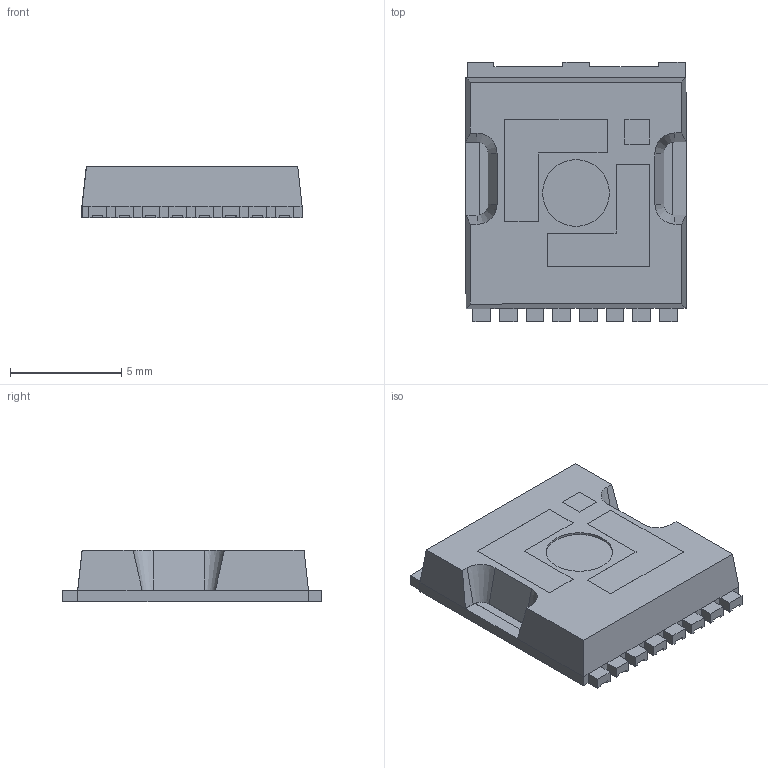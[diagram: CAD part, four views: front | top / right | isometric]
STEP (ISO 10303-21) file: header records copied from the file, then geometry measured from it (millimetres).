
FILE_DESCRIPTION(('HOOPS Exchange Step'),'2;1');
FILE_NAME('C:\Users\lenovo\AppData\Local\Packages\Shapr3D.Shapr3D_dvv5p1vgwv6mp\TempState\export\temp_export','2025-12-17T18:20:29+08:00',('lenovo'),('Shapr3D Limited'),'HOOPS Exchange 2025.7','Shapr3D','Authorized');
FILE_SCHEMA( ('AP242_MANAGED_MODEL_BASED_3D_ENGINEERING_MIM_LF {1 0 10303 442 1 1 4}') );
Length unit declared in the file: millimetre
Products named in the file (1): root
Bounding box: 9.91 x 11.68 x 2.3 mm (x, y, z)
Volume: 219.2 mm3; surface area: 491.6 mm2
Topology: 4 solids, 4 shells, 210 faces, 572 edges, 370 vertices
Faces by surface type: plane 201, cone 8, cylinder 1
Full cylindrical faces by diameter (mm): 3 x1
Entity records: 6547 total; most frequent: CARTESIAN_POINT 1154, ORIENTED_EDGE 1144, DIRECTION 1014, EDGE_CURVE 572, VECTOR 554, LINE 554, VERTEX_POINT 370, AXIS2_PLACEMENT_3D 230
